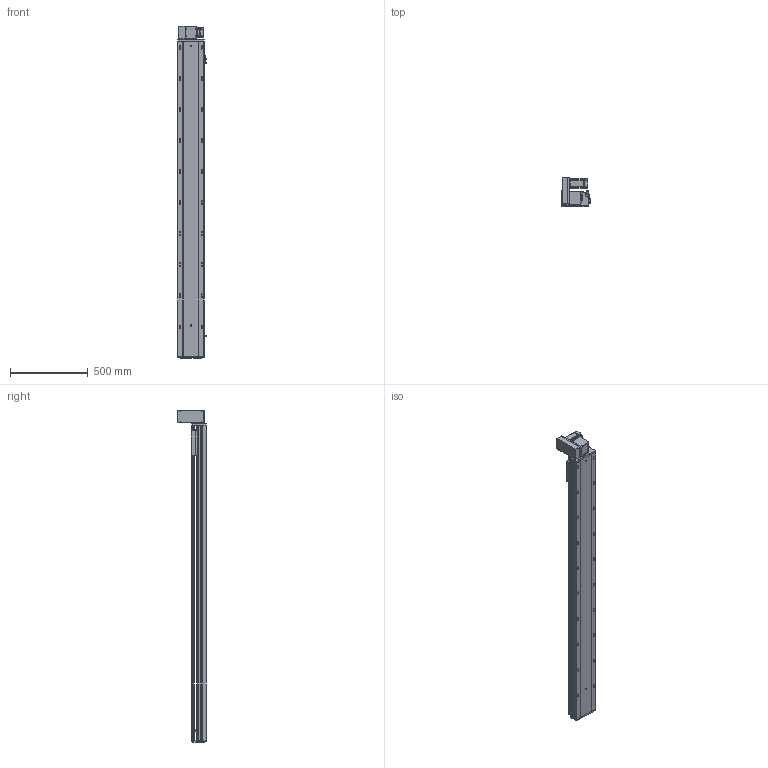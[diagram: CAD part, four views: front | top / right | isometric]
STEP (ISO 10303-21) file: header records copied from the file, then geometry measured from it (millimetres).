
FILE_DESCRIPTION (( 'STEP AP203' ), '1' );
FILE_NAME ('RY170-T-300-UL-P400W.SLDASM_1750.step', '2021-03-02T02:13:58', ( '盈信电脑' ), ( '东莞市道滘镇水果街19号' ), 'SwSTEP 2.0', 'SolidWorks 2012', '' );
FILE_SCHEMA (( 'CONFIG_CONTROL_DESIGN' ));
Products named in the file (18): RY170-T-300-UL-P400W.SLDASM_1750; RY170-T蹟翐M4; 15; RY170同步轮电机安装板(400W); RY170肮祭謫萇儂欶; RY120-T主同步轮轴承压盖; 滅袉蝶18-10; RY170-T肮祭謫裔啣; RY170-T肮祭湍揤踡輸2; RY170-T肮祭湍揤踡輸1; RY170翋肮祭謫釱; RY170肮祭謫ヶ裔啣; 覜茼ん672; RY170綴裔啣; RY170-T-300肮祭謫倰第裔啣-DL_1750; RY170外置感应片(200共用）; RY170肮祭湍臏賑輸; RY170-T-300肮祭謫倰第菁釱-DL_1750
Assembly tree (20 placements, depth 2):
  RY170-T-300-UL-P400W.SLDASM_1750
    RY170-T-300肮祭謫倰第菁釱-DL_1750
    RY170肮祭湍臏賑輸
    RY170-T-300肮祭謫倰第裔啣-DL_1750
    RY170綴裔啣
    覜茼ん672  x3
    RY170外置感应片(200共用）
    RY170肮祭謫ヶ裔啣
    RY170翋肮祭謫釱
    RY170-T肮祭湍揤踡輸1
    RY170-T肮祭湍揤踡輸2
    RY170-T肮祭謫裔啣
    滅袉蝶18-10  x2
    RY120-T主同步轮轴承压盖
    RY170肮祭謫萇儂欶
    RY170同步轮电机安装板(400W)
    RY170-T蹟翐M4
    15
Bounding box: 183.7 x 184 x 2138 mm (x, y, z)
Volume: 10009876.6 mm3; surface area: 3428863.5 mm2
Topology: 20 solids, 20 shells, 2745 faces, 7690 edges, 4895 vertices
Faces by surface type: cylinder 1276, plane 1151, cone 288, bspline 30
Entity records: 88040 total; most frequent: CARTESIAN_POINT 20049, ORIENTED_EDGE 13920, DIRECTION 13640, EDGE_CURVE 6960, AXIS2_PLACEMENT_3D 4828, VERTEX_POINT 4563, VECTOR 3984, LINE 3984
